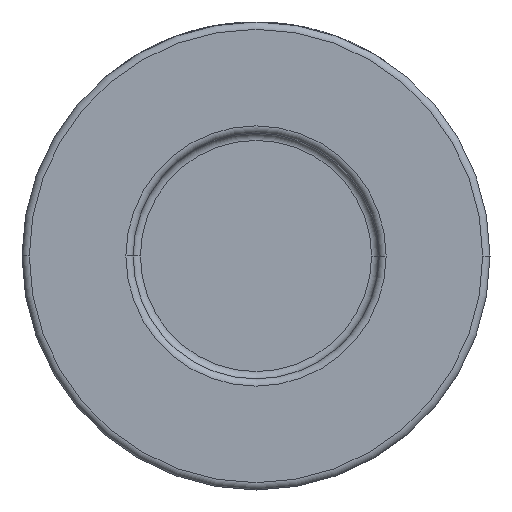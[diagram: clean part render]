
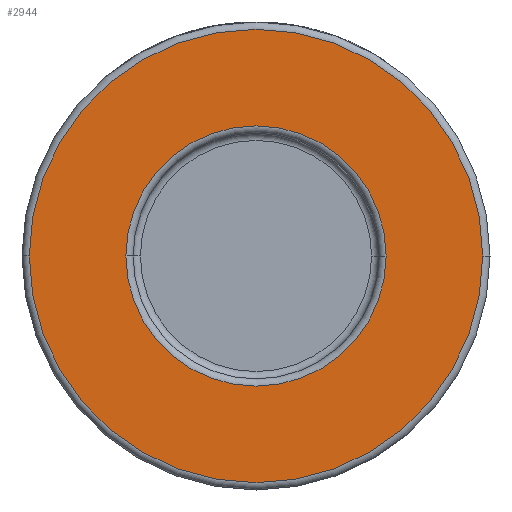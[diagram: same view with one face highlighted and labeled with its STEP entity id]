
A CAD part, front view. The second image highlights one B-rep face of the part: STEP entity #2944.
In plain terms, the highlighted planar face has unit normal (0, -1, 0).
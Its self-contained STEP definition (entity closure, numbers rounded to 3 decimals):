
#67 = DIRECTION ( 'NONE',  ( 0., 1., 0. ) ) ;
#158 = CARTESIAN_POINT ( 'NONE',  ( 0., -21., 0. ) ) ;
#160 = EDGE_LOOP ( 'NONE', ( #215, #1086 ) ) ;
#215 = ORIENTED_EDGE ( 'NONE', *, *, #4013, .T. ) ;
#631 = CARTESIAN_POINT ( 'NONE',  ( 0., -21., 0. ) ) ;
#786 = CIRCLE ( 'NONE', #1739, 17.8 ) ;
#950 = CARTESIAN_POINT ( 'NONE',  ( 17.8, -21., 0. ) ) ;
#1086 = ORIENTED_EDGE ( 'NONE', *, *, #3766, .T. ) ;
#1324 = VERTEX_POINT ( 'NONE', #2897 ) ;
#1512 = CIRCLE ( 'NONE', #2089, 31. ) ;
#1551 = ORIENTED_EDGE ( 'NONE', *, *, #4292, .T. ) ;
#1597 = AXIS2_PLACEMENT_3D ( 'NONE', #3912, #67, #1829 ) ;
#1739 = AXIS2_PLACEMENT_3D ( 'NONE', #631, #3154, #2423 ) ;
#1829 = DIRECTION ( 'NONE',  ( 1., 0., 0. ) ) ;
#1921 = DIRECTION ( 'NONE',  ( 0., -1., 0. ) ) ;
#2089 = AXIS2_PLACEMENT_3D ( 'NONE', #158, #1921, #2331 ) ;
#2192 = VERTEX_POINT ( 'NONE', #4243 ) ;
#2331 = DIRECTION ( 'NONE',  ( 1., 0., 0. ) ) ;
#2382 = ORIENTED_EDGE ( 'NONE', *, *, #2654, .T. ) ;
#2423 = DIRECTION ( 'NONE',  ( 1., 0., 0. ) ) ;
#2654 = EDGE_CURVE ( 'NONE', #1324, #2192, #1512, .T. ) ;
#2897 = CARTESIAN_POINT ( 'NONE',  ( 31., -21., 0. ) ) ;
#2939 = EDGE_LOOP ( 'NONE', ( #2382, #1551 ) ) ;
#2940 = FACE_BOUND ( 'NONE', #160, .T. ) ;
#2944 = ADVANCED_FACE ( 'NONE', ( #2940, #4027 ), #2961, .T. ) ;
#2961 = PLANE ( 'NONE',  #4176 ) ;
#2991 = AXIS2_PLACEMENT_3D ( 'NONE', #4415, #3050, #4461 ) ;
#3050 = DIRECTION ( 'NONE',  ( 0., -1., 0. ) ) ;
#3141 = CIRCLE ( 'NONE', #2991, 31. ) ;
#3154 = DIRECTION ( 'NONE',  ( 0., 1., 0. ) ) ;
#3618 = VERTEX_POINT ( 'NONE', #950 ) ;
#3766 = EDGE_CURVE ( 'NONE', #4453, #3618, #786, .T. ) ;
#3912 = CARTESIAN_POINT ( 'NONE',  ( 0., -21., 0. ) ) ;
#4002 = DIRECTION ( 'NONE',  ( 0., -1., 0. ) ) ;
#4013 = EDGE_CURVE ( 'NONE', #3618, #4453, #4466, .T. ) ;
#4027 = FACE_OUTER_BOUND ( 'NONE', #2939, .T. ) ;
#4176 = AXIS2_PLACEMENT_3D ( 'NONE', #4343, #4002, #4367 ) ;
#4243 = CARTESIAN_POINT ( 'NONE',  ( -31., -21., 0. ) ) ;
#4292 = EDGE_CURVE ( 'NONE', #2192, #1324, #3141, .T. ) ;
#4339 = CARTESIAN_POINT ( 'NONE',  ( -17.8, -21., 0. ) ) ;
#4343 = CARTESIAN_POINT ( 'NONE',  ( 32., -21., 0. ) ) ;
#4367 = DIRECTION ( 'NONE',  ( 1., 0., 0. ) ) ;
#4415 = CARTESIAN_POINT ( 'NONE',  ( 0., -21., 0. ) ) ;
#4453 = VERTEX_POINT ( 'NONE', #4339 ) ;
#4461 = DIRECTION ( 'NONE',  ( 1., 0., 0. ) ) ;
#4466 = CIRCLE ( 'NONE', #1597, 17.8 ) ;
